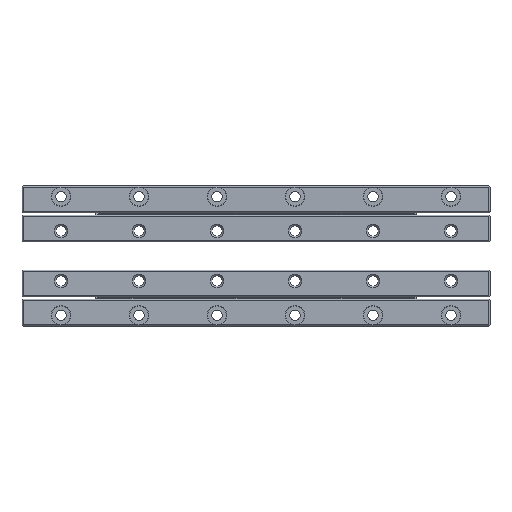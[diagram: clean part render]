
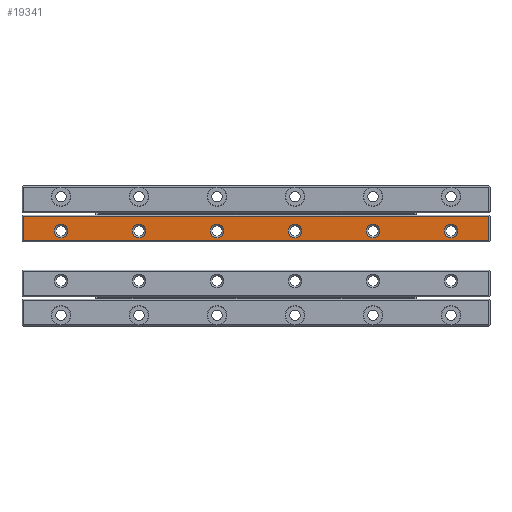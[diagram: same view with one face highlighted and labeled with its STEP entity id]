
A CAD part, top view. The second image highlights one B-rep face of the part: STEP entity #19341.
In plain terms, the highlighted planar face has unit normal (0, 0, 1).
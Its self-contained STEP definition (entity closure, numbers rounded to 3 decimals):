
#2452=LINE('',#113480,#8542);
#2453=LINE('',#113483,#8543);
#2454=LINE('',#113485,#8544);
#2455=LINE('',#113487,#8545);
#8542=VECTOR('',#90526,1.);
#8543=VECTOR('',#90527,1.);
#8544=VECTOR('',#90528,1.);
#8545=VECTOR('',#90529,1.);
#16762=FACE_BOUND('',#28897,.T.);
#16763=FACE_BOUND('',#28898,.T.);
#16764=FACE_BOUND('',#28899,.T.);
#16765=FACE_BOUND('',#28900,.T.);
#16766=FACE_BOUND('',#28901,.T.);
#16767=FACE_BOUND('',#28902,.T.);
#16768=FACE_BOUND('',#28903,.T.);
#19341=ADVANCED_FACE('',(#16762,#16763,#16764,#16765,#16766,#16767,#16768),
#22423,.T.);
#22423=PLANE('',#77490);
#28897=EDGE_LOOP('',(#39801));
#28898=EDGE_LOOP('',(#39802));
#28899=EDGE_LOOP('',(#39803));
#28900=EDGE_LOOP('',(#39804));
#28901=EDGE_LOOP('',(#39805));
#28902=EDGE_LOOP('',(#39806));
#28903=EDGE_LOOP('',(#39807,#39808,#39809,#39810));
#39801=ORIENTED_EDGE('',*,*,#63717,.T.);
#39802=ORIENTED_EDGE('',*,*,#63718,.T.);
#39803=ORIENTED_EDGE('',*,*,#63719,.T.);
#39804=ORIENTED_EDGE('',*,*,#63720,.T.);
#39805=ORIENTED_EDGE('',*,*,#63721,.T.);
#39806=ORIENTED_EDGE('',*,*,#63722,.T.);
#39807=ORIENTED_EDGE('',*,*,#63723,.T.);
#39808=ORIENTED_EDGE('',*,*,#63724,.T.);
#39809=ORIENTED_EDGE('',*,*,#63725,.T.);
#39810=ORIENTED_EDGE('',*,*,#63726,.T.);
#55369=VERTEX_POINT('',#113469);
#55370=VERTEX_POINT('',#113471);
#55371=VERTEX_POINT('',#113473);
#55372=VERTEX_POINT('',#113475);
#55373=VERTEX_POINT('',#113477);
#55374=VERTEX_POINT('',#113479);
#55375=VERTEX_POINT('',#113481);
#55376=VERTEX_POINT('',#113482);
#55377=VERTEX_POINT('',#113484);
#55378=VERTEX_POINT('',#113486);
#63717=EDGE_CURVE('',#55369,#55369,#72233,.T.);
#63718=EDGE_CURVE('',#55370,#55370,#72234,.T.);
#63719=EDGE_CURVE('',#55371,#55371,#72235,.T.);
#63720=EDGE_CURVE('',#55372,#55372,#72236,.T.);
#63721=EDGE_CURVE('',#55373,#55373,#72237,.T.);
#63722=EDGE_CURVE('',#55374,#55374,#72238,.T.);
#63723=EDGE_CURVE('',#55375,#55376,#2452,.T.);
#63724=EDGE_CURVE('',#55376,#55377,#2453,.T.);
#63725=EDGE_CURVE('',#55377,#55378,#2454,.T.);
#63726=EDGE_CURVE('',#55378,#55375,#2455,.T.);
#72233=CIRCLE('',#77484,2.175);
#72234=CIRCLE('',#77485,2.175);
#72235=CIRCLE('',#77486,2.175);
#72236=CIRCLE('',#77487,2.175);
#72237=CIRCLE('',#77488,2.175);
#72238=CIRCLE('',#77489,2.175);
#77484=AXIS2_PLACEMENT_3D('',#113468,#90514,#90515);
#77485=AXIS2_PLACEMENT_3D('',#113470,#90516,#90517);
#77486=AXIS2_PLACEMENT_3D('',#113472,#90518,#90519);
#77487=AXIS2_PLACEMENT_3D('',#113474,#90520,#90521);
#77488=AXIS2_PLACEMENT_3D('',#113476,#90522,#90523);
#77489=AXIS2_PLACEMENT_3D('',#113478,#90524,#90525);
#77490=AXIS2_PLACEMENT_3D('',#113488,#90530,#90531);
#90514=DIRECTION('',(0.,0.,-1.));
#90515=DIRECTION('',(-1.,0.,0.));
#90516=DIRECTION('',(0.,0.,-1.));
#90517=DIRECTION('',(-1.,0.,0.));
#90518=DIRECTION('',(0.,0.,-1.));
#90519=DIRECTION('',(-1.,0.,0.));
#90520=DIRECTION('',(0.,0.,-1.));
#90521=DIRECTION('',(-1.,0.,0.));
#90522=DIRECTION('',(0.,0.,-1.));
#90523=DIRECTION('',(-1.,0.,0.));
#90524=DIRECTION('',(0.,0.,-1.));
#90525=DIRECTION('',(-1.,0.,0.));
#90526=DIRECTION('',(1.,0.,0.));
#90527=DIRECTION('',(0.,1.,0.));
#90528=DIRECTION('',(-1.,0.,0.));
#90529=DIRECTION('',(0.,-1.,0.));
#90530=DIRECTION('',(0.,0.,1.));
#90531=DIRECTION('',(1.,0.,0.));
#113468=CARTESIAN_POINT('',(12.5,30.5,8.));
#113469=CARTESIAN_POINT('',(10.325,30.5,8.));
#113470=CARTESIAN_POINT('',(37.5,30.5,8.));
#113471=CARTESIAN_POINT('',(35.325,30.5,8.));
#113472=CARTESIAN_POINT('',(62.5,30.5,8.));
#113473=CARTESIAN_POINT('',(60.325,30.5,8.));
#113474=CARTESIAN_POINT('',(87.5,30.5,8.));
#113475=CARTESIAN_POINT('',(85.325,30.5,8.));
#113476=CARTESIAN_POINT('',(112.5,30.5,8.));
#113477=CARTESIAN_POINT('',(110.325,30.5,8.));
#113478=CARTESIAN_POINT('',(137.5,30.5,8.));
#113479=CARTESIAN_POINT('',(135.325,30.5,8.));
#113480=CARTESIAN_POINT('',(75.,27.425,8.));
#113481=CARTESIAN_POINT('',(0.425,27.425,8.));
#113482=CARTESIAN_POINT('',(149.575,27.425,8.));
#113483=CARTESIAN_POINT('',(149.575,31.3,8.));
#113484=CARTESIAN_POINT('',(149.575,35.175,8.));
#113485=CARTESIAN_POINT('',(75.,35.175,8.));
#113486=CARTESIAN_POINT('',(0.425,35.175,8.));
#113487=CARTESIAN_POINT('',(0.425,31.3,8.));
#113488=CARTESIAN_POINT('',(75.,31.3,8.));
